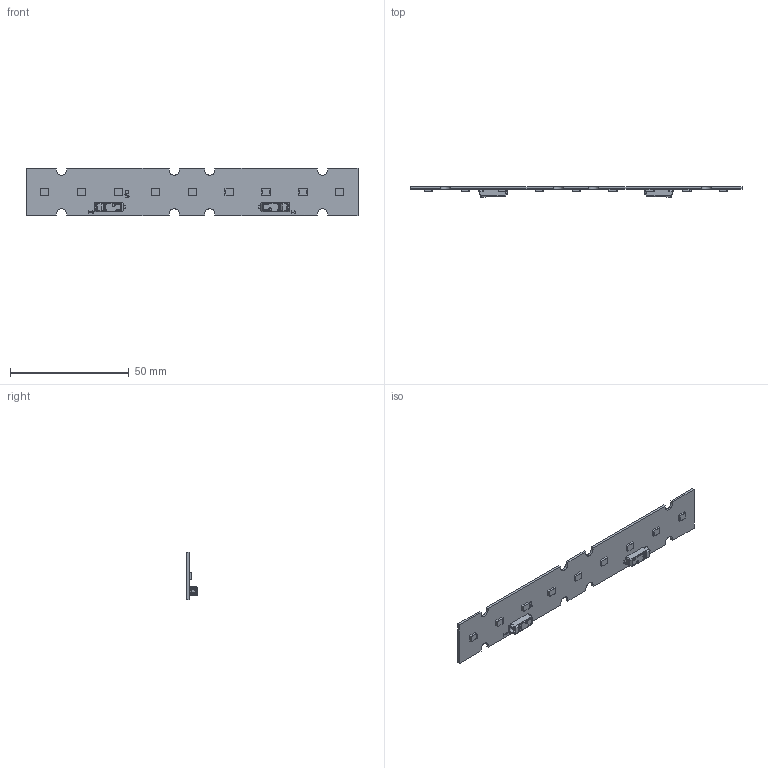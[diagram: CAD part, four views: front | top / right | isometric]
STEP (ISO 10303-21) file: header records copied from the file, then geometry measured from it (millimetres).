
FILE_DESCRIPTION(/* description */ ('Unknown'),/* implementation_level */ '2;1');
FILE_NAME(/* name */ 'LinLED 140x20mm 275mm(9x2835) 2C sh-000 2018-06-13',/* time_stamp */ '2018-06-13T11:54:27+02:00',/* author */ ('Unknown'),/* organization */ ('Unknown'),/* preprocessor_version */ 'ST-DEVELOPER v16.7',/* originating_system */ 'DEX',/* authorisation */ $);
FILE_SCHEMA (('AUTOMOTIVE_DESIGN {1 0 10303 214 3 1 1}'));
Length unit declared in the file: millimetre
Products named in the file (1): LinLED 140x20mm 275mm(9x2835) 2C sh-000 2018-06-13
Bounding box: 140 x 4.5 x 20 mm (x, y, z)
Volume: 3032.3 mm3; surface area: 6318.4 mm2
Topology: 3 solids, 3 shells, 712 faces, 1822 edges, 1143 vertices
Faces by surface type: plane 407, cylinder 135, bspline 114, cone 30, sphere 16, torus 10
Full cylindrical faces by diameter (mm): 1.5 x1
Entity records: 25914 total; most frequent: CARTESIAN_POINT 8181, ORIENTED_EDGE 3594, DIRECTION 2845, EDGE_CURVE 1797, LINE 1151, VECTOR 1151, VERTEX_POINT 1137, AXIS2_PLACEMENT_3D 847
